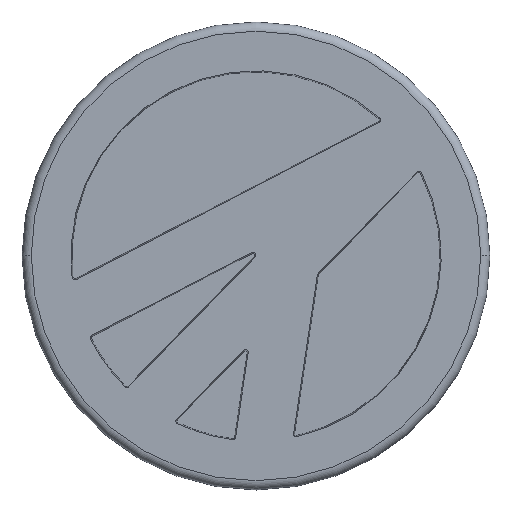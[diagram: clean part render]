
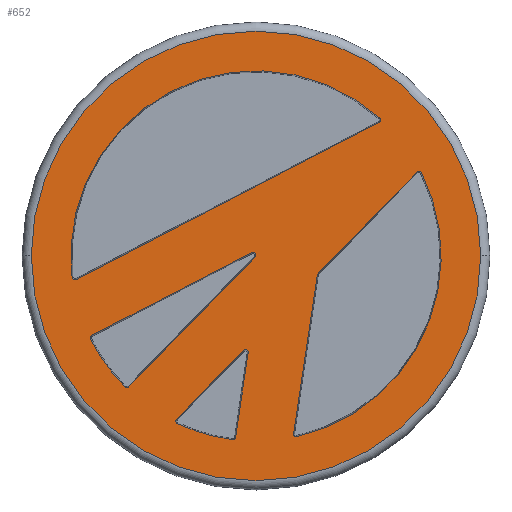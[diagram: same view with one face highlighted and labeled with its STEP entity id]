
A CAD part, top view. The second image highlights one B-rep face of the part: STEP entity #652.
In plain terms, the highlighted planar face has unit normal (0, 0, 1).
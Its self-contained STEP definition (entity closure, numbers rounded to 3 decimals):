
#90=CARTESIAN_POINT('',(-9.834,-1.145,1.5));
#91=DIRECTION('',(0.,0.,-1.));
#92=DIRECTION('',(0.46,-0.888,0.));
#93=AXIS2_PLACEMENT_3D('',#90,#91,#92);
#99=CARTESIAN_POINT('',(0.,0.,1.5));
#100=DIRECTION('',(0.,0.,-1.));
#101=DIRECTION('',(-0.993,-0.116,0.));
#102=AXIS2_PLACEMENT_3D('',#99,#100,#101);
#134=CARTESIAN_POINT('',(0.,0.,1.5));
#135=DIRECTION('',(0.,0.,-1.));
#136=DIRECTION('',(-0.127,-0.992,0.));
#137=AXIS2_PLACEMENT_3D('',#134,#135,#136);
#143=CARTESIAN_POINT('',(0.,0.,1.5));
#144=DIRECTION('',(0.,0.,-1.));
#145=DIRECTION('',(0.893,0.45,0.));
#146=AXIS2_PLACEMENT_3D('',#143,#144,#145);
#157=DIRECTION('',(-0.888,-0.46,0.));
#158=VECTOR('',#157,18.515);
#159=CARTESIAN_POINT('',(6.674,7.24,1.5));
#160=LINE('',#159,#158);
#161=DIRECTION('',(-0.697,-0.717,0.));
#162=VECTOR('',#161,9.816);
#163=CARTESIAN_POINT('',(-0.058,-0.059,1.5));
#164=LINE('',#163,#162);
#165=DIRECTION('',(0.888,0.46,0.));
#166=VECTOR('',#165,9.772);
#167=CARTESIAN_POINT('',(-8.914,-4.315,1.5));
#168=LINE('',#167,#166);
#169=CARTESIAN_POINT('',(0.,0.,1.5));
#170=DIRECTION('',(0.,0.,-1.));
#171=DIRECTION('',(-0.708,-0.706,0.));
#172=AXIS2_PLACEMENT_3D('',#169,#170,#171);
#174=DIRECTION('',(-0.148,-0.989,0.));
#175=VECTOR('',#174,4.636);
#176=CARTESIAN_POINT('',(-0.424,-5.257,1.5));
#177=LINE('',#176,#175);
#178=DIRECTION('',(0.697,0.717,0.));
#179=VECTOR('',#178,5.202);
#180=CARTESIAN_POINT('',(-4.311,-8.858,1.5));
#181=LINE('',#180,#179);
#182=DIRECTION('',(0.697,0.717,0.));
#183=VECTOR('',#182,7.7);
#184=CARTESIAN_POINT('',(3.366,-0.963,1.5));
#185=LINE('',#184,#183);
#186=DIRECTION('',(0.148,0.989,0.));
#187=VECTOR('',#186,8.68);
#188=CARTESIAN_POINT('',(2.042,-9.632,1.5));
#189=LINE('',#188,#187);
#190=CARTESIAN_POINT('',(0.,0.,1.5));
#191=DIRECTION('',(0.,0.,1.));
#192=DIRECTION('',(-1.,0.,0.));
#193=AXIS2_PLACEMENT_3D('',#190,#191,#192);
#195=CARTESIAN_POINT('',(0.,0.,1.5));
#196=DIRECTION('',(0.,0.,1.));
#197=DIRECTION('',(1.,0.,0.));
#198=AXIS2_PLACEMENT_3D('',#195,#196,#197);
#208=CARTESIAN_POINT('',(6.604,7.375,1.5));
#209=DIRECTION('',(0.,0.,-1.));
#210=DIRECTION('',(0.667,0.745,0.));
#211=AXIS2_PLACEMENT_3D('',#208,#209,#210);
#221=CARTESIAN_POINT('',(-7.011,-6.99,1.5));
#222=DIRECTION('',(0.,0.,-1.));
#223=DIRECTION('',(0.717,-0.697,0.));
#224=AXIS2_PLACEMENT_3D('',#221,#222,#223);
#226=CARTESIAN_POINT('',(-0.167,0.047,1.5));
#227=DIRECTION('',(0.,0.,-1.));
#228=DIRECTION('',(-0.46,0.888,0.));
#229=AXIS2_PLACEMENT_3D('',#226,#227,#228);
#239=CARTESIAN_POINT('',(-8.843,-4.45,1.5));
#240=DIRECTION('',(0.,0.,-1.));
#241=DIRECTION('',(-0.893,-0.45,0.));
#242=AXIS2_PLACEMENT_3D('',#239,#240,#241);
#244=CARTESIAN_POINT('',(-1.26,-9.819,1.5));
#245=DIRECTION('',(0.,0.,-1.));
#246=DIRECTION('',(0.989,-0.148,0.));
#247=AXIS2_PLACEMENT_3D('',#244,#245,#246);
#257=CARTESIAN_POINT('',(-0.575,-5.235,1.5));
#258=DIRECTION('',(0.,0.,-1.));
#259=DIRECTION('',(-0.717,0.697,0.));
#260=AXIS2_PLACEMENT_3D('',#257,#258,#259);
#278=CARTESIAN_POINT('',(-4.202,-8.964,1.5));
#279=DIRECTION('',(0.,0.,-1.));
#280=DIRECTION('',(-0.424,-0.905,0.));
#281=AXIS2_PLACEMENT_3D('',#278,#279,#280);
#283=CARTESIAN_POINT('',(8.843,4.45,1.5));
#284=DIRECTION('',(0.,0.,-1.));
#285=DIRECTION('',(-0.717,0.697,0.));
#286=AXIS2_PLACEMENT_3D('',#283,#284,#285);
#288=CARTESIAN_POINT('',(3.475,-1.07,1.5));
#289=DIRECTION('',(0.,0.,-1.));
#290=DIRECTION('',(-0.989,0.148,0.));
#291=AXIS2_PLACEMENT_3D('',#288,#289,#290);
#301=CARTESIAN_POINT('',(2.192,-9.654,1.5));
#302=DIRECTION('',(0.,0.,-1.));
#303=DIRECTION('',(0.221,-0.975,0.));
#304=AXIS2_PLACEMENT_3D('',#301,#302,#303);
#348=CARTESIAN_POINT('',(-12.2,0.,1.5));
#349=CARTESIAN_POINT('',(12.2,0.,1.5));
#350=VERTEX_POINT('',#348);
#351=VERTEX_POINT('',#349);
#357=CARTESIAN_POINT('',(-9.985,-1.163,1.5));
#359=VERTEX_POINT('',#357);
#362=CARTESIAN_POINT('',(-9.763,-1.28,1.5));
#363=VERTEX_POINT('',#362);
#368=CARTESIAN_POINT('',(-8.98,-4.519,1.5));
#369=VERTEX_POINT('',#368);
#370=CARTESIAN_POINT('',(-8.914,-4.315,1.5));
#371=VERTEX_POINT('',#370);
#373=CARTESIAN_POINT('',(-7.119,-7.098,1.5));
#375=VERTEX_POINT('',#373);
#378=CARTESIAN_POINT('',(-6.901,-7.096,1.5));
#379=VERTEX_POINT('',#378);
#384=CARTESIAN_POINT('',(-4.266,-9.102,1.5));
#385=VERTEX_POINT('',#384);
#386=CARTESIAN_POINT('',(-4.311,-8.858,1.5));
#387=VERTEX_POINT('',#386);
#389=CARTESIAN_POINT('',(-0.058,-0.059,1.5));
#391=VERTEX_POINT('',#389);
#394=CARTESIAN_POINT('',(-0.237,0.182,1.5));
#395=VERTEX_POINT('',#394);
#400=CARTESIAN_POINT('',(6.706,7.489,1.5));
#401=VERTEX_POINT('',#400);
#402=CARTESIAN_POINT('',(6.674,7.24,1.5));
#403=VERTEX_POINT('',#402);
#405=CARTESIAN_POINT('',(8.979,4.519,1.5));
#407=VERTEX_POINT('',#405);
#410=CARTESIAN_POINT('',(8.734,4.557,1.5));
#411=VERTEX_POINT('',#410);
#412=CARTESIAN_POINT('',(2.226,-9.803,1.5));
#413=VERTEX_POINT('',#412);
#414=CARTESIAN_POINT('',(-1.279,-9.971,1.5));
#415=VERTEX_POINT('',#414);
#420=CARTESIAN_POINT('',(-0.684,-5.128,1.5));
#421=VERTEX_POINT('',#420);
#422=CARTESIAN_POINT('',(3.366,-0.963,1.5));
#423=VERTEX_POINT('',#422);
#430=CARTESIAN_POINT('',(2.042,-9.632,1.5));
#431=VERTEX_POINT('',#430);
#434=CARTESIAN_POINT('',(-1.109,-9.842,1.5));
#435=VERTEX_POINT('',#434);
#438=CARTESIAN_POINT('',(-0.424,-5.257,1.5));
#439=VERTEX_POINT('',#438);
#442=CARTESIAN_POINT('',(3.325,-1.047,1.5));
#443=VERTEX_POINT('',#442);
#594=CARTESIAN_POINT('',(0.,0.,1.5));
#595=DIRECTION('',(0.,0.,1.));
#596=DIRECTION('',(1.,0.,0.));
#597=AXIS2_PLACEMENT_3D('',#594,#595,#596);
#598=PLANE('',#597);
#600=ORIENTED_EDGE('',*,*,#599,.F.);
#602=ORIENTED_EDGE('',*,*,#601,.F.);
#603=EDGE_LOOP('',(#600,#602));
#604=FACE_OUTER_BOUND('',#603,.F.);
#606=ORIENTED_EDGE('',*,*,#605,.F.);
#608=ORIENTED_EDGE('',*,*,#607,.F.);
#610=ORIENTED_EDGE('',*,*,#609,.F.);
#612=ORIENTED_EDGE('',*,*,#611,.F.);
#613=ORIENTED_EDGE('',*,*,#559,.F.);
#615=ORIENTED_EDGE('',*,*,#614,.F.);
#616=EDGE_LOOP('',(#606,#608,#610,#612,#613,#615));
#617=FACE_BOUND('',#616,.F.);
#618=ORIENTED_EDGE('',*,*,#574,.F.);
#620=ORIENTED_EDGE('',*,*,#619,.F.);
#622=ORIENTED_EDGE('',*,*,#621,.F.);
#624=ORIENTED_EDGE('',*,*,#623,.F.);
#626=ORIENTED_EDGE('',*,*,#625,.F.);
#628=ORIENTED_EDGE('',*,*,#627,.F.);
#629=EDGE_LOOP('',(#618,#620,#622,#624,#626,#628));
#630=FACE_BOUND('',#629,.F.);
#632=ORIENTED_EDGE('',*,*,#631,.F.);
#634=ORIENTED_EDGE('',*,*,#633,.F.);
#636=ORIENTED_EDGE('',*,*,#635,.F.);
#638=ORIENTED_EDGE('',*,*,#637,.F.);
#639=ORIENTED_EDGE('',*,*,#586,.F.);
#641=ORIENTED_EDGE('',*,*,#640,.F.);
#642=EDGE_LOOP('',(#632,#634,#636,#638,#639,#641));
#643=FACE_BOUND('',#642,.F.);
#645=ORIENTED_EDGE('',*,*,#644,.F.);
#647=ORIENTED_EDGE('',*,*,#646,.F.);
#648=ORIENTED_EDGE('',*,*,#541,.F.);
#649=ORIENTED_EDGE('',*,*,#530,.F.);
#650=EDGE_LOOP('',(#645,#647,#648,#649));
#651=FACE_BOUND('',#650,.F.);
#652=ADVANCED_FACE('',(#604,#617,#630,#643,#651),#598,.T.);
#94=CIRCLE('',#93,0.152);
#103=CIRCLE('',#102,10.052);
#138=CIRCLE('',#137,10.052);
#147=CIRCLE('',#146,10.052);
#173=CIRCLE('',#172,10.052);
#194=CIRCLE('',#193,12.2);
#199=CIRCLE('',#198,12.2);
#212=CIRCLE('',#211,0.152);
#225=CIRCLE('',#224,0.152);
#230=CIRCLE('',#229,0.152);
#243=CIRCLE('',#242,0.152);
#248=CIRCLE('',#247,0.152);
#261=CIRCLE('',#260,0.152);
#282=CIRCLE('',#281,0.152);
#287=CIRCLE('',#286,0.152);
#292=CIRCLE('',#291,0.152);
#305=CIRCLE('',#304,0.152);
#530=EDGE_CURVE('',#363,#359,#94,.T.);
#541=EDGE_CURVE('',#359,#401,#103,.T.);
#559=EDGE_CURVE('',#375,#369,#173,.T.);
#574=EDGE_CURVE('',#415,#385,#138,.T.);
#586=EDGE_CURVE('',#407,#413,#147,.T.);
#599=EDGE_CURVE('',#350,#351,#194,.T.);
#601=EDGE_CURVE('',#351,#350,#199,.T.);
#605=EDGE_CURVE('',#391,#379,#164,.T.);
#607=EDGE_CURVE('',#395,#391,#230,.T.);
#609=EDGE_CURVE('',#371,#395,#168,.T.);
#611=EDGE_CURVE('',#369,#371,#243,.T.);
#614=EDGE_CURVE('',#379,#375,#225,.T.);
#619=EDGE_CURVE('',#435,#415,#248,.T.);
#621=EDGE_CURVE('',#439,#435,#177,.T.);
#623=EDGE_CURVE('',#421,#439,#261,.T.);
#625=EDGE_CURVE('',#387,#421,#181,.T.);
#627=EDGE_CURVE('',#385,#387,#282,.T.);
#631=EDGE_CURVE('',#423,#411,#185,.T.);
#633=EDGE_CURVE('',#443,#423,#292,.T.);
#635=EDGE_CURVE('',#431,#443,#189,.T.);
#637=EDGE_CURVE('',#413,#431,#305,.T.);
#640=EDGE_CURVE('',#411,#407,#287,.T.);
#644=EDGE_CURVE('',#403,#363,#160,.T.);
#646=EDGE_CURVE('',#401,#403,#212,.T.);
